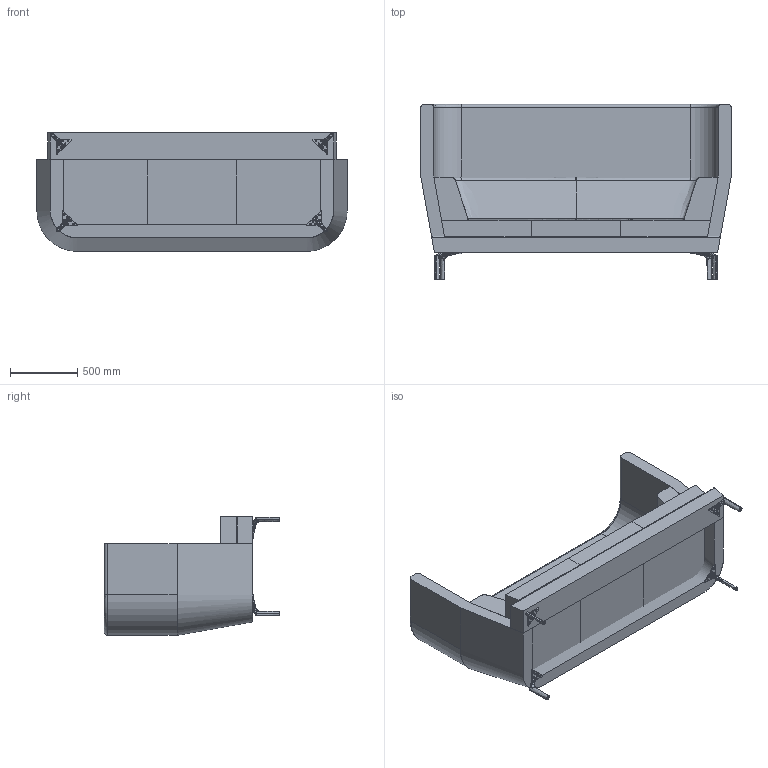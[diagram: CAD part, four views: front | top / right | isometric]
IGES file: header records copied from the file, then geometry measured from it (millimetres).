
Start section: SolidWorks IGES file using analytic representation for surfaces
Global section: file name: P:\3D CAD BLOCKS\ENTENTE\ENT - 3S\ENT - 3S.IGS; native system: SolidWorks 2012; preprocessor: SolidWorks 2012; author: adam; date: 140220.175312; units: millimetre
Bounding box: 2300 x 1301.5 x 880 mm (x, y, z)
Surface area: 15916407.5 mm2 (no closed solid volume)
Topology: 0 solids, 0 shells, 590 faces, 7388 edges, 7384 vertices
Faces by surface type: bspline 340, revolution 250
